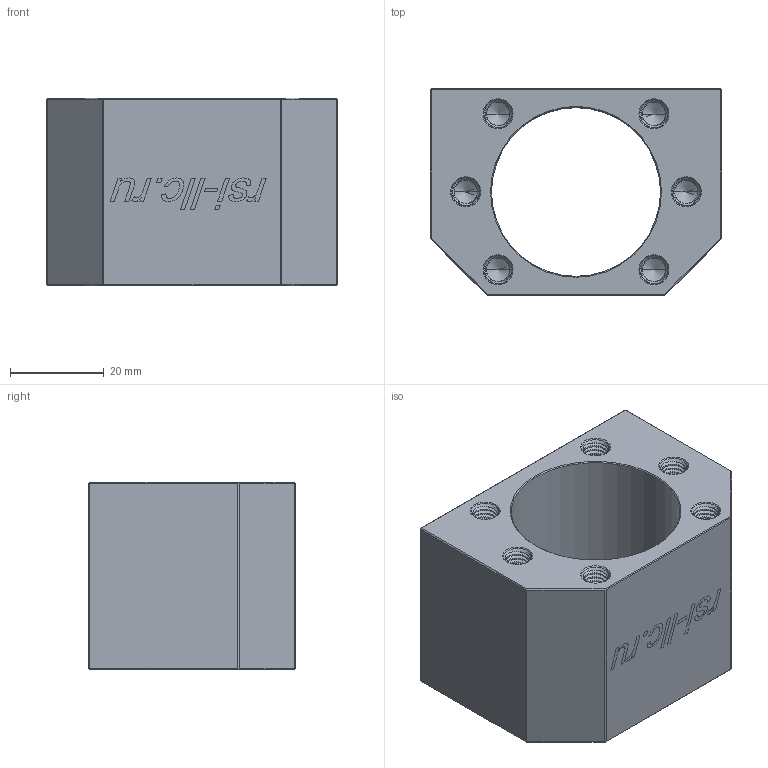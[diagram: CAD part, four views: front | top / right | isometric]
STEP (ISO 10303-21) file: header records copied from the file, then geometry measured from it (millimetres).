
FILE_DESCRIPTION (( 'STEP AP214' ), '1' );
FILE_NAME ('MGD20.STEP', '2026-09-22T07:09:17', ( '' ), ( '' ), 'SwSTEP 2.0', 'SolidWorks 2022', '' );
FILE_SCHEMA (( 'AUTOMOTIVE_DESIGN' ));
Length unit declared in the file: millimetre
Products named in the file (2): MGD20
Assembly tree (1 placements, depth 2):
  MGD20
    MGD20
Bounding box: 62 x 44.01 x 40 mm (x, y, z)
Volume: 58528.3 mm3; surface area: 19671 mm2
Topology: 12 solids, 12 shells, 646 faces, 1718 edges, 1096 vertices
Faces by surface type: cylinder 380, plane 131, bspline 90, cone 45
Entity records: 47634 total; most frequent: CARTESIAN_POINT 29316, ORIENTED_EDGE 3404, DIRECTION 2000, EDGE_CURVE 1702, VERTEX_POINT 1096, VECTOR 704, LINE 704, EDGE_LOOP 668
